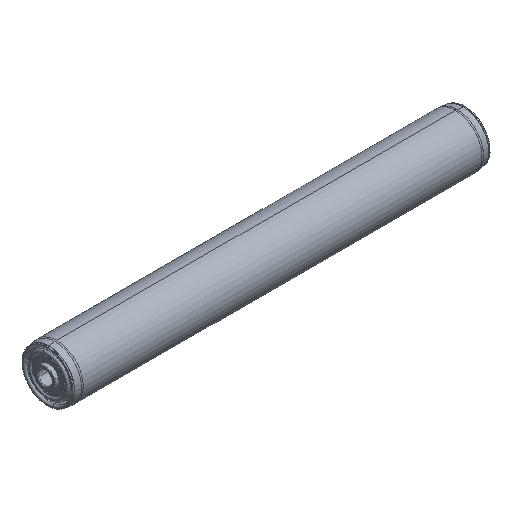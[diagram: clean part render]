
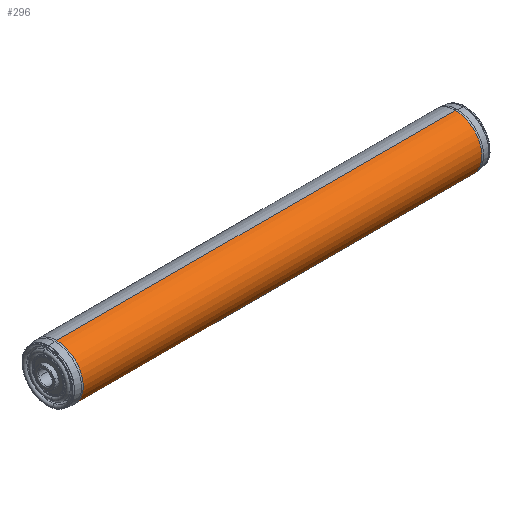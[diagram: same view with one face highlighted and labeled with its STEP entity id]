
A CAD part, isometric view. The second image highlights one B-rep face of the part: STEP entity #296.
In plain terms, the highlighted cylindrical face has radius 38 mm (diameter 76 mm), a partial arc.
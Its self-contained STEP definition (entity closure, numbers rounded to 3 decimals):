
#241 = VERTEX_POINT ( 'NONE', #1033 ) ;
#252 = VERTEX_POINT ( 'NONE', #1073 ) ;
#273 = EDGE_CURVE ( 'NONE', #311, #2463, #1102, .T. ) ;
#274 = ORIENTED_EDGE ( 'NONE', *, *, #273, .T. ) ;
#275 = ORIENTED_EDGE ( 'NONE', *, *, #349, .T. ) ;
#277 = EDGE_CURVE ( 'NONE', #311, #241, #1097, .T. ) ;
#295 = EDGE_CURVE ( 'NONE', #2463, #252, #1127, .T. ) ;
#296 = ADVANCED_FACE ( 'NONE', ( #1123 ), #1122, .T. ) ;
#297 = EDGE_LOOP ( 'NONE', ( #348, #274, #350, #275 ) ) ;
#311 = VERTEX_POINT ( 'NONE', #1154 ) ;
#348 = ORIENTED_EDGE ( 'NONE', *, *, #277, .F. ) ;
#349 = EDGE_CURVE ( 'NONE', #252, #241, #1226, .T. ) ;
#350 = ORIENTED_EDGE ( 'NONE', *, *, #295, .T. ) ;
#1033 = CARTESIAN_POINT ( 'NONE',  ( 11.223, 0., -38. ) ) ;
#1073 = CARTESIAN_POINT ( 'NONE',  ( 11.223, 0., 38. ) ) ;
#1094 = DIRECTION ( 'NONE',  ( -1., 0., 0. ) ) ;
#1095 = VECTOR ( 'NONE', #1094, 1000. ) ;
#1096 = CARTESIAN_POINT ( 'NONE',  ( 593., 0., -38. ) ) ;
#1097 = LINE ( 'NONE', #1096, #1095 ) ;
#1098 = DIRECTION ( 'NONE',  ( 0., 0., -1. ) ) ;
#1099 = DIRECTION ( 'NONE',  ( -1., 0., 0. ) ) ;
#1100 = CARTESIAN_POINT ( 'NONE',  ( 581.777, 0., 0. ) ) ;
#1101 = AXIS2_PLACEMENT_3D ( 'NONE', #1100, #1099, #1098 ) ;
#1102 = CIRCLE ( 'NONE', #1101, 38. ) ;
#1118 = DIRECTION ( 'NONE',  ( 0., 0., 1. ) ) ;
#1119 = DIRECTION ( 'NONE',  ( -1., 0., 0. ) ) ;
#1120 = CARTESIAN_POINT ( 'NONE',  ( 593., 0., 0. ) ) ;
#1121 = AXIS2_PLACEMENT_3D ( 'NONE', #1120, #1119, #1118 ) ;
#1122 = CYLINDRICAL_SURFACE ( 'NONE', #1121, 38. ) ;
#1123 = FACE_OUTER_BOUND ( 'NONE', #297, .T. ) ;
#1124 = DIRECTION ( 'NONE',  ( -1., 0., 0. ) ) ;
#1125 = VECTOR ( 'NONE', #1124, 1000. ) ;
#1126 = CARTESIAN_POINT ( 'NONE',  ( 593., 0., 38. ) ) ;
#1127 = LINE ( 'NONE', #1126, #1125 ) ;
#1154 = CARTESIAN_POINT ( 'NONE',  ( 581.777, 0., -38. ) ) ;
#1222 = DIRECTION ( 'NONE',  ( 0., 0., 1. ) ) ;
#1223 = DIRECTION ( 'NONE',  ( 1., 0., 0. ) ) ;
#1224 = CARTESIAN_POINT ( 'NONE',  ( 11.223, 0., 0. ) ) ;
#1225 = AXIS2_PLACEMENT_3D ( 'NONE', #1224, #1223, #1222 ) ;
#1226 = CIRCLE ( 'NONE', #1225, 38. ) ;
#1810 = CARTESIAN_POINT ( 'NONE',  ( 581.777, 0., 38. ) ) ;
#2463 = VERTEX_POINT ( 'NONE', #1810 ) ;
